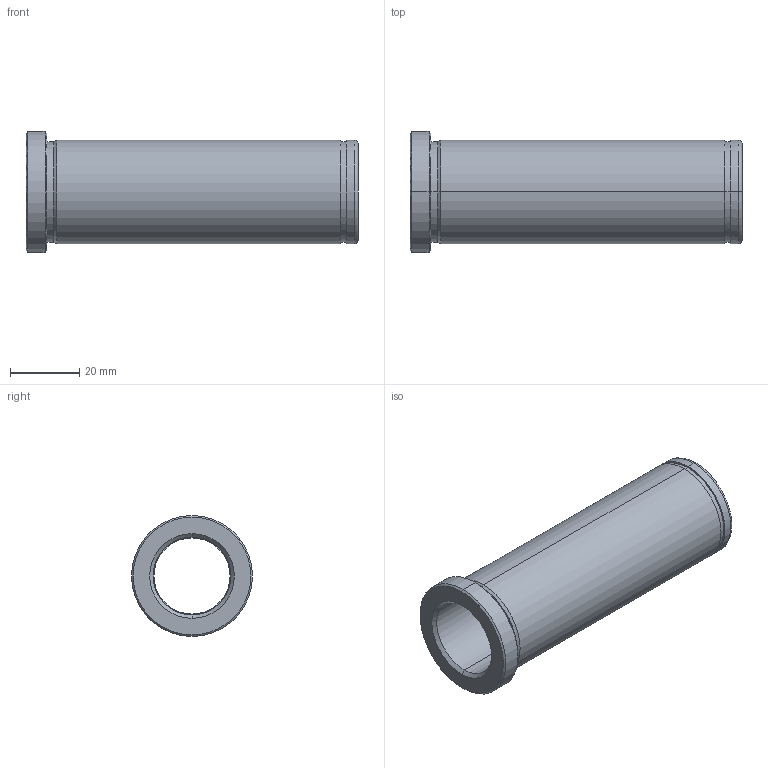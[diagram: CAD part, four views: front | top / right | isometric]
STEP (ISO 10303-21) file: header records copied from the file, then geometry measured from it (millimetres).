
FILE_DESCRIPTION(('CATIA V5 STEP Exchange'),'2;1');
FILE_NAME('C:\Users\Utente\Desktop\IO LAVORO\3D X SITO CF\X SITO\PLASTICA\553\553-22X96.stp','2021-05-25T18:06:57+00:00',('none'),('none'),'CATIA Version 5 Release 20 GA (IN-10)','CATIA V5 STEP AP203','none');
FILE_SCHEMA(('CONFIG_CONTROL_DESIGN'));
Length unit declared in the file: millimetre
Products named in the file (1): 553-22X96
Bounding box: 96 x 35 x 35 mm (x, y, z)
Volume: 32242.7 mm3; surface area: 16921.7 mm2
Topology: 1 solids, 1 shells, 32 faces, 102 edges, 76 vertices
Faces by surface type: cylinder 14, cone 8, plane 6, torus 4
Entity records: 1334 total; most frequent: CARTESIAN_POINT 389, ORIENTED_EDGE 204, DIRECTION 152, EDGE_CURVE 102, AXIS2_PLACEMENT_3D 99, VERTEX_POINT 76, CIRCLE 66, EDGE_LOOP 38
